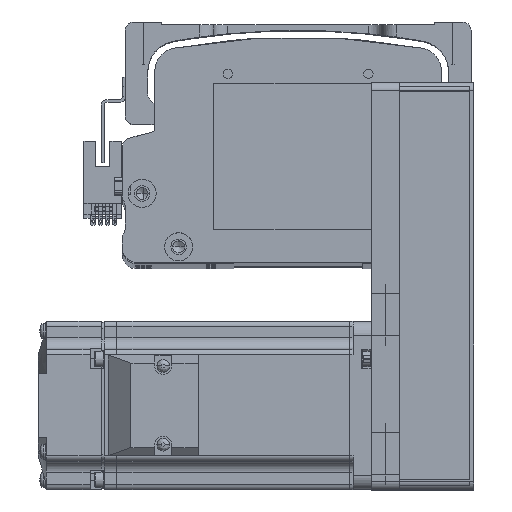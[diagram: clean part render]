
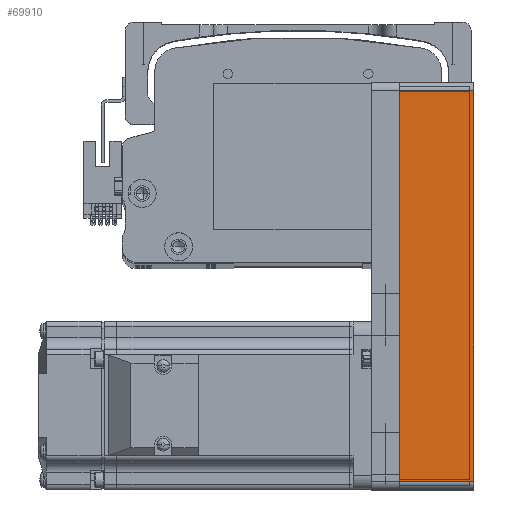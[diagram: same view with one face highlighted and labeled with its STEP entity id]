
A CAD part, top view. The second image highlights one B-rep face of the part: STEP entity #69910.
In plain terms, the highlighted planar face has unit normal (0, 0, 1) as drawn and (0, -1, 0) by its records, which use the part's own axes.
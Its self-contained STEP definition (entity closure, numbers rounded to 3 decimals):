
#1473 = CARTESIAN_POINT ( 'NONE',  ( 69.5, -30., 0. ) ) ;
#2493 = AXIS2_PLACEMENT_3D ( 'NONE', #15210, #60757, #21672 ) ;
#6163 = CARTESIAN_POINT ( 'NONE',  ( -69.5, -30., 26.5 ) ) ;
#6443 = DIRECTION ( 'NONE',  ( 0., 0., -1. ) ) ;
#14913 = PLANE ( 'NONE',  #2493 ) ;
#14938 = LINE ( 'NONE', #71381, #28101 ) ;
#15210 = CARTESIAN_POINT ( 'NONE',  ( 72.5, -30., 26.5 ) ) ;
#16698 = VERTEX_POINT ( 'NONE', #1473 ) ;
#17989 = EDGE_LOOP ( 'NONE', ( #66137, #19547, #68776, #20347 ) ) ;
#19547 = ORIENTED_EDGE ( 'NONE', *, *, #74112, .T. ) ;
#20347 = ORIENTED_EDGE ( 'NONE', *, *, #48452, .T. ) ;
#21672 = DIRECTION ( 'NONE',  ( -1., 0., 0. ) ) ;
#24562 = VERTEX_POINT ( 'NONE', #83653 ) ;
#27223 = VECTOR ( 'NONE', #79579, 1000. ) ;
#27450 = CARTESIAN_POINT ( 'NONE',  ( 72.5, -30., 26.5 ) ) ;
#28101 = VECTOR ( 'NONE', #58639, 1000. ) ;
#30520 = VERTEX_POINT ( 'NONE', #37702 ) ;
#32161 = CARTESIAN_POINT ( 'NONE',  ( -69.5, -30., 0. ) ) ;
#33599 = CARTESIAN_POINT ( 'NONE',  ( 69.5, -30., 26.5 ) ) ;
#34355 = VECTOR ( 'NONE', #6443, 1000. ) ;
#34424 = VECTOR ( 'NONE', #72632, 1000. ) ;
#36119 = EDGE_CURVE ( 'NONE', #40249, #16698, #14938, .T. ) ;
#37702 = CARTESIAN_POINT ( 'NONE',  ( 69.5, -30., 26.5 ) ) ;
#40249 = VERTEX_POINT ( 'NONE', #32161 ) ;
#45689 = FACE_OUTER_BOUND ( 'NONE', #17989, .T. ) ;
#48452 = EDGE_CURVE ( 'NONE', #24562, #40249, #51762, .T. ) ;
#51762 = LINE ( 'NONE', #6163, #34355 ) ;
#56958 = EDGE_CURVE ( 'NONE', #24562, #30520, #63988, .T. ) ;
#58639 = DIRECTION ( 'NONE',  ( 1., 0., 0. ) ) ;
#60757 = DIRECTION ( 'NONE',  ( 0., 1., 0. ) ) ;
#63988 = LINE ( 'NONE', #27450, #27223 ) ;
#66137 = ORIENTED_EDGE ( 'NONE', *, *, #36119, .T. ) ;
#68776 = ORIENTED_EDGE ( 'NONE', *, *, #56958, .F. ) ;
#69910 = ADVANCED_FACE ( 'NONE', ( #45689 ), #14913, .F. ) ;
#71381 = CARTESIAN_POINT ( 'NONE',  ( 72.5, -30., 0. ) ) ;
#72632 = DIRECTION ( 'NONE',  ( 0., 0., 1. ) ) ;
#73204 = LINE ( 'NONE', #33599, #34424 ) ;
#74112 = EDGE_CURVE ( 'NONE', #16698, #30520, #73204, .T. ) ;
#79579 = DIRECTION ( 'NONE',  ( 1., 0., 0. ) ) ;
#83653 = CARTESIAN_POINT ( 'NONE',  ( -69.5, -30., 26.5 ) ) ;
